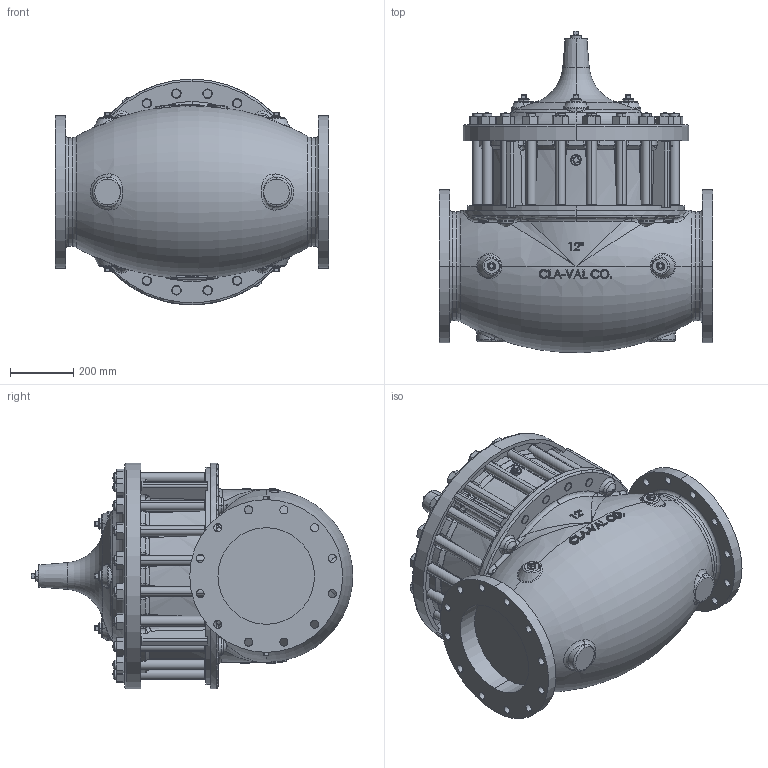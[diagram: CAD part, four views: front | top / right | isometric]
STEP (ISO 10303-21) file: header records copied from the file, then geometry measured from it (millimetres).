
FILE_DESCRIPTION (( 'STEP AP203' ), '1' );
FILE_NAME ('12in 100-02, 150AG.STEP', '2019-07-25T13:15:37', ( '' ), ( '' ), 'SwSTEP 2.0', 'SolidWorks 2018', '' );
FILE_SCHEMA (( 'CONFIG_CONTROL_DESIGN' ));
Products named in the file (8): 12in Cover 100-01_Default (No Spotface); STUD 1.250-7 UNC (42786)_STEEL 13.125 LG; 12in Body, PU; 1.0 NPT SQ HD PIPE PLUG (67660)_18-8 SST; 12in Body HyGl150 STD_Default 150 FLAT FACE; 12in 100-02, 150AG; Hexnut 1.250-7 UNC (67820)_ASF-STEEL,CP; .750 NPT PIPE PLUG (67660)_Default STEEL, CAD PL
Assembly tree (54 placements, depth 2):
  12in 100-02, 150AG
    12in Body HyGl150 STD_Default 150 FLAT FACE
    12in Cover 100-01_Default (No Spotface)
    STUD 1.250-7 UNC (42786)_STEEL 13.125 LG  x20
    Hexnut 1.250-7 UNC (67820)_ASF-STEEL,CP  x20
    .750 NPT PIPE PLUG (67660)_Default STEEL, CAD PL  x4
    1.0 NPT SQ HD PIPE PLUG (67660)_18-8 SST  x7
    12in Body, PU
Bounding box: 863.6 x 1014.16 x 712.72 mm (x, y, z)
Volume: 237184302.4 mm3; surface area: 5605372.1 mm2
Topology: 54 solids, 54 shells, 3153 faces, 7410 edges, 4304 vertices
Faces by surface type: cone 875, cylinder 730, bspline 680, plane 465, torus 266, sphere 137
Entity records: 97267 total; most frequent: CARTESIAN_POINT 55508, ORIENTED_EDGE 9196, DIRECTION 7154, EDGE_CURVE 4598, AXIS2_PLACEMENT_3D 3076, VERTEX_POINT 2809, EDGE_LOOP 2073, FACE_OUTER_BOUND 1861
